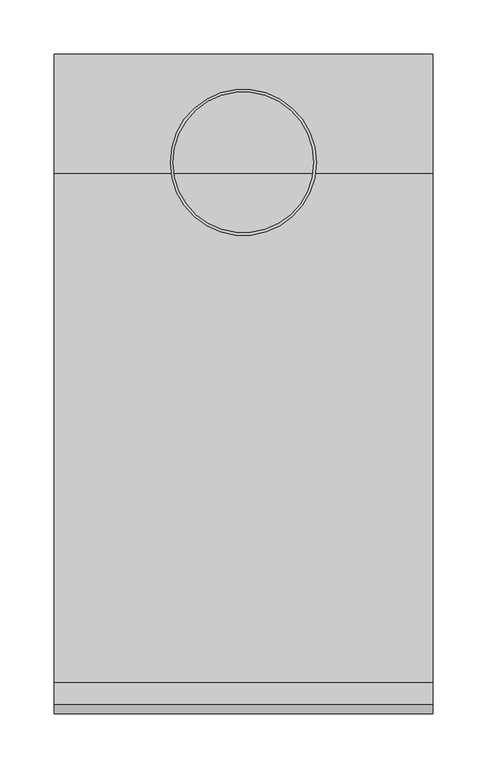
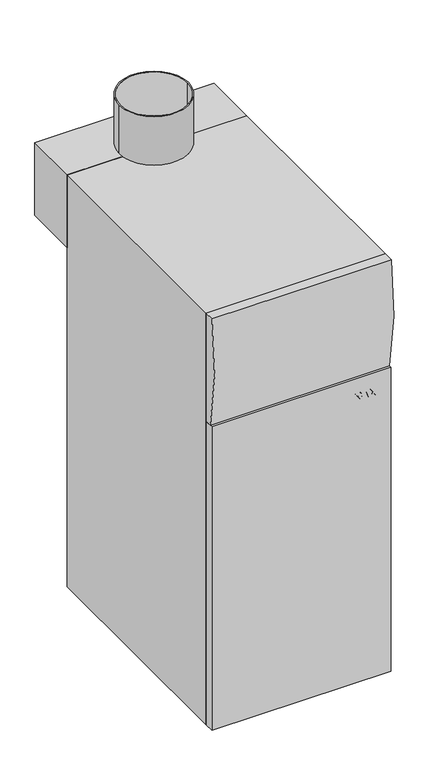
"""IFC4 building model written with IfcOpenShell, lengths in millimetres: proxy geometry, BAXI_ГазовыйКотел_Slim-iN : BAXI_Газовый котел_Slim_1.230_iN."""

from ifc_helpers import new_model, si_unit, point, frame, frame_2d, origin, origin_with_axes, place, context, project, spatial, polyline, circle_curve, trimmed, segment, composite_curve, outline, extrude, source, transform, mapped, element, save


def mechanical_equipment_650515a4(model_context):
    return source(origin(), model_context, "Body", "SweptSolid", [
        extrude(outline(composite_curve([segment(trimmed(circle_curve(frame_2d((0.0, -100.0)), 67.5), [point((-67.5, -100.0))], [point((67.5, -100.0))], False, "CARTESIAN"), True, "CONTINUOUS"), segment(trimmed(circle_curve(frame_2d((0.0, -100.0)), 67.5), [point((67.5, -100.0))], [point((-67.5, -100.0))], False, "CARTESIAN"), True, "CONTINUOUS")], self_intersect=False), holes=[composite_curve([segment(trimmed(circle_curve(frame_2d((0.0, -100.0)), 65.0), [point((-65.0, -100.0))], [point((65.0, -100.0))], True, "CARTESIAN"), True, "CONTINUOUS"), segment(trimmed(circle_curve(frame_2d((0.0, -100.0)), 65.0), [point((65.0, -100.0))], [point((-65.0, -100.0))], True, "CARTESIAN"), True, "CONTINUOUS")], self_intersect=False)]), frame((0.0, 0.0, 850.0), z_axis=(0.0, 0.0, 1.0), x_axis=(1.0, 0.0, 0.0)), (0.0, 0.0, 1.0), 100.0),
        extrude(outline(polyline([(175.0, 0.0), (175.0, -110.0), (-175.0, -110.0), (-175.0, 0.0), (175.0, 0.0)])), frame((0.0, 0.0, 700.0), z_axis=(0.0, 0.0, 1.0), x_axis=(1.0, 0.0, 0.0)), (0.0, 0.0, 1.0), 150.0),
        extrude(outline(composite_curve([segment(polyline([(-580.5, 627.0), (-594.6849095, 627.0)]), True, "CONTINUOUS"), segment(trimmed(circle_curve(frame_2d((-72.7028253, 751.9417216)), 536.7268671), [point((-594.6849095, 627.0))], [point((-600.396206, 850.0))], False, "CARTESIAN"), True, "CONTINUOUS"), segment(polyline([(-600.396206, 850.0), (-580.5, 850.0), (-580.5, 627.0)]), True, "CONTINUOUS")], self_intersect=False)), frame((-175.0, 0.0, 0.0), z_axis=(1.0, 0.0, 0.0), x_axis=(0.0, 1.0, 0.0)), (0.0, 0.0, 1.0), 350.0),
        extrude(outline(polyline([(175.0, -580.5), (175.0, -600.0), (-175.0, -600.0), (-175.0, -580.5), (175.0, -580.5)])), origin_with_axes(), (0.0, 0.0, 1.0), 627.0),
        extrude(outline(composite_curve([segment(trimmed(circle_curve(frame_2d((435.0, 133.0)), 7.5), [point((427.5, 133.0))], [point((442.5, 133.0))], False, "CARTESIAN"), True, "CONTINUOUS"), segment(trimmed(circle_curve(frame_2d((435.0, 133.0)), 7.5), [point((442.5, 133.0))], [point((427.5, 133.0))], False, "CARTESIAN"), True, "CONTINUOUS")], self_intersect=False)), frame((0.0, -110.0, 0.0), z_axis=(0.0, 1.0, 0.0), x_axis=(0.0, 0.0, 1.0)), (0.0, 0.0, 1.0), 7.0),
        extrude(outline(composite_curve([segment(trimmed(circle_curve(frame_2d((635.0, -133.0)), 16.0), [point((619.0, -133.0))], [point((651.0, -133.0))], False, "CARTESIAN"), True, "CONTINUOUS"), segment(trimmed(circle_curve(frame_2d((635.0, -133.0)), 16.0), [point((651.0, -133.0))], [point((619.0, -133.0))], False, "CARTESIAN"), True, "CONTINUOUS")], self_intersect=False)), frame((0.0, -110.0, 0.0), z_axis=(0.0, 1.0, 0.0), x_axis=(0.0, 0.0, 1.0)), (0.0, 0.0, 1.0), 7.0),
        extrude(outline(composite_curve([segment(trimmed(circle_curve(frame_2d((60.0, 90.0)), 16.0), [point((44.0, 90.0))], [point((76.0, 90.0))], False, "CARTESIAN"), True, "CONTINUOUS"), segment(trimmed(circle_curve(frame_2d((60.0, 90.0)), 16.0), [point((76.0, 90.0))], [point((44.0, 90.0))], False, "CARTESIAN"), True, "CONTINUOUS")], self_intersect=False)), frame((0.0, -110.0, 0.0), z_axis=(0.0, 1.0, 0.0), x_axis=(0.0, 0.0, 1.0)), (0.0, 0.0, 1.0), 7.0),
        extrude(outline(polyline([(175.0, -110.0), (175.0, -580.5), (-175.0, -580.5), (-175.0, -110.0), (175.0, -110.0)])), origin_with_axes(), (0.0, 0.0, 1.0), 850.0),
        extrude(outline(polyline([(596.3910755, 105.6468806), (581.0871845, 105.6468806), (581.0871845, 110.8772283), (581.1896659, 114.6196977), (581.9127292, 116.7015886), (583.4803152, 118.033847), (585.5014764, 118.5215826), (587.7978192, 117.8421688), (589.1794205, 115.8988175), (590.5344525, 117.4607102), (592.5157598, 118.0357448), (594.3167758, 117.5537026), (595.6034868, 116.3485971), (596.2392511, 114.7088945), (596.3910755, 111.9286117), (596.3910755, 105.6468806)]), holes=[polyline([(593.7189675, 108.5619075), (593.7189675, 110.5128499), (590.3674457, 113.2532788), (590.3181028, 110.7861337), (590.3181028, 108.5619075), (593.7189675, 108.5619075)]), polyline([(587.6459949, 108.5619075), (587.6459949, 111.2529935), (583.850387, 113.928897), (583.7592924, 111.6439411), (583.7592924, 108.5619075), (587.6459949, 108.5619075)])]), frame((0.0, -600.0, 0.0), z_axis=(0.0, 1.0, 0.0), x_axis=(0.0, 0.0, 1.0)), (0.0, 0.0, 1.0), 5.0),
        extrude(outline(polyline([(581.0871845, 133.8254736), (596.3910755, 128.1852003), (596.3910755, 125.080393), (581.0871845, 119.4932582), (581.0871845, 122.5980655), (584.4880491, 123.7822951), (584.4880491, 129.5630059), (581.0871845, 130.762418), (581.0871845, 133.8254736)]), holes=[polyline([(587.1601571, 128.6292864), (587.1601571, 124.7160147), (592.7472919, 126.6593659), (587.1601571, 128.6292864)])]), frame((0.0, -600.0, 0.0), z_axis=(0.0, 1.0, 0.0), x_axis=(0.0, 0.0, 1.0)), (0.0, 0.0, 1.0), 5.0),
        extrude(outline(polyline([(581.0871845, 133.946933), (581.0871845, 137.3553889), (586.4921301, 140.8701218), (581.0871845, 144.3848547), (581.0871845, 147.7933106), (589.1110995, 142.5743498), (596.3910755, 147.3074728), (596.3910755, 143.8990169), (591.7338646, 140.8701218), (596.3910755, 137.8412267), (596.3910755, 134.4327708), (589.1110995, 139.1658939), (581.0871845, 133.946933)])), frame((0.0, -600.0, 0.0), z_axis=(0.0, 1.0, 0.0), x_axis=(0.0, 0.0, 1.0)), (0.0, 0.0, 1.0), 5.0),
        extrude(outline(polyline([(149.3722835, -595.0), (152.2873103, -595.0), (152.2873103, -600.0), (149.3722835, -600.0), (149.3722835, -595.0)])), frame((0.0, 0.0, 581.0871845), z_axis=(0.0, 0.0, 1.0), x_axis=(1.0, 0.0, 0.0)), (0.0, 0.0, 1.0), 15.303891),
    ])


if __name__ == "__main__":
    model = new_model("IFC4")
    model_context = context("Model", 3, world=origin())
    ifc_project = project(units=[si_unit("LENGTHUNIT", "METRE", prefix="MILLI")], contexts=[model_context])
    site = spatial("IfcSite", under=ifc_project)
    building = spatial("IfcBuilding", under=site)
    placement = place(None, origin())
    mechanical_equipment_shape = mechanical_equipment_650515a4(model_context)
    element("IfcBuildingElementProxy", 1, Name="BAXI_ГазовыйКотел_Slim-iN : BAXI_Газовый котел_Slim_1.230_iN", ObjectType="BAXI_ГазовыйКотел_Slim-iN : BAXI_Газовый котел_Slim_1.230_iN", at=placement, inside=building, context=model_context, shape_type="MappedRepresentation", body=[
        mapped(mechanical_equipment_shape, transform((0.0, 0.0, 0.0), x_axis=(1.0, 0.0, 0.0), y_axis=(0.0, 1.0, 0.0), z_axis=(0.0, 0.0, 1.0))),
    ])
    save(model, "model.ifc")
